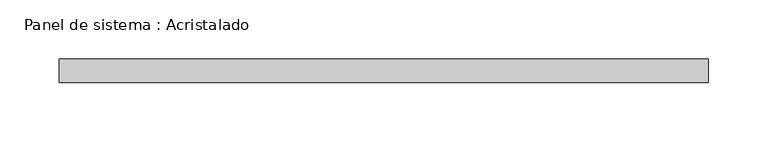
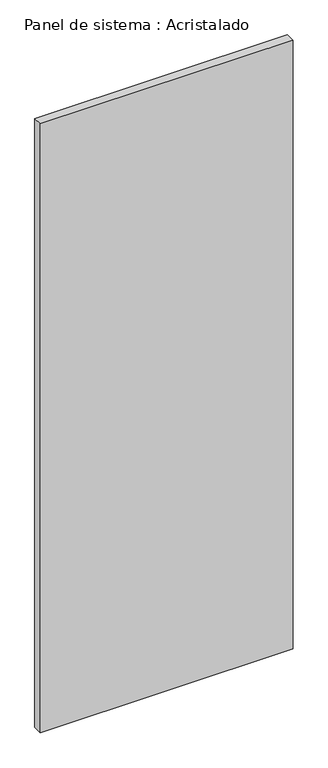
"""IFC4 building model written with IfcOpenShell, lengths in millimetres: plate geometry, Panel de sistema : Acristalado."""

from ifc_helpers import new_model, si_unit, origin, origin_with_axes, place, context, project, spatial, polyline, outline, extrude, source, transform, mapped, element, save


def panel_de_sistema_acristalado_718d59bf(model_context):
    return source(origin(), model_context, "Body", "SweptSolid", [
        extrude(outline(polyline([(275.0, -10.0), (-275.0, -10.0), (-275.0, 10.0), (275.0, 10.0), (275.0, -10.0)])), origin_with_axes(), (0.0, 0.0, 1.0), 1400.0),
    ])


if __name__ == "__main__":
    model = new_model("IFC4")
    model_context = context("Model", 3, world=origin())
    ifc_project = project(units=[si_unit("LENGTHUNIT", "METRE", prefix="MILLI")], contexts=[model_context])
    site = spatial("IfcSite", under=ifc_project)
    building = spatial("IfcBuilding", under=site)
    placement = place(None, origin())
    panel_de_sistema_acristalado_shape = panel_de_sistema_acristalado_718d59bf(model_context)
    element("IfcPlate", 1, ObjectType="Panel de sistema : Acristalado", at=placement, inside=building, context=model_context, shape_type="MappedRepresentation", body=[
        mapped(panel_de_sistema_acristalado_shape, transform((0.0, 0.0, 0.0), x_axis=(1.0, 0.0, 0.0), y_axis=(0.0, 1.0, 0.0), z_axis=(0.0, 0.0, 1.0))),
    ])
    save(model, "model.ifc")
